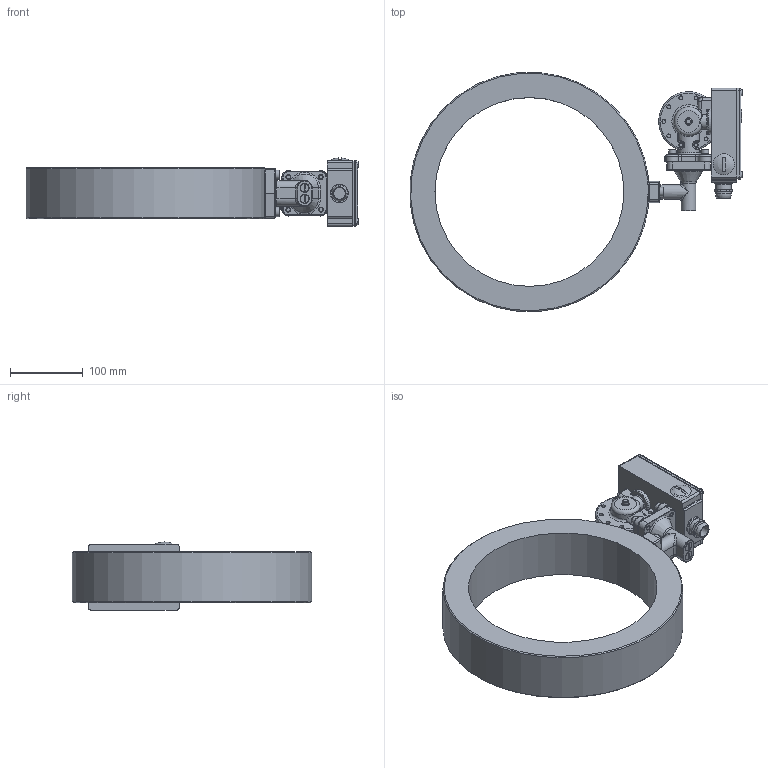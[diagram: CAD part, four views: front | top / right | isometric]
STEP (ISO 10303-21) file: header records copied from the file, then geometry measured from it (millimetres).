
FILE_DESCRIPTION(/* description */ ('Alibre Inc.'),/* implementation_level */ '2;1');
FILE_NAME(/* name */ 'export0',/* time_stamp */ '2012-10-15T13:34:40+02:00',/* author */ (''),/* organization */ (''),/* preprocessor_version */ 'ST-DEVELOPER v14',/* originating_system */ 'Alibre',/* authorisation */ '');
FILE_SCHEMA (('CONFIG_CONTROL_DESIGN'));
Length unit declared in the file: centimetre
Products named in the file (13): ID_1; ID_2; ID_3; ID_4; ID_5; ID_6; ID_7; ID_8; ID_9; ID_10
Bounding box: 456.88 x 329.08 x 93.66 mm (x, y, z)
Volume: 2659453 mm3; surface area: 364056.6 mm2
Topology: 29 solids, 29 shells, 1094 faces, 2578 edges, 1625 vertices
Faces by surface type: plane 540, cylinder 251, bspline 168, torus 65, cone 65, sphere 5
Full cylindrical faces by diameter (mm): 5 x23, 5.5 x18, 6 x12, 6.038 x2, 6.5 x4, 7.5 x1, 8 x18, 8.3 x9, 8.5 x2, 8.7 x2, 9.6 x4, 10 x4, 11.75 x2, 11.85 x1, 12 x2, 13 x2, 14 x2, 16 x1, 17.966 x1, 22 x2, 22.5 x4, 31 x1, 32 x1, 47 x1, 56 x2, 260 x1
Entity records: 34369 total; most frequent: CARTESIAN_POINT 13997, ORIENTED_EDGE 3918, DIRECTION 3181, EDGE_CURVE 1959, VERTEX_POINT 1309, AXIS2_PLACEMENT_3D 1303, EDGE_LOOP 1146, FACE_BOUND 1146
